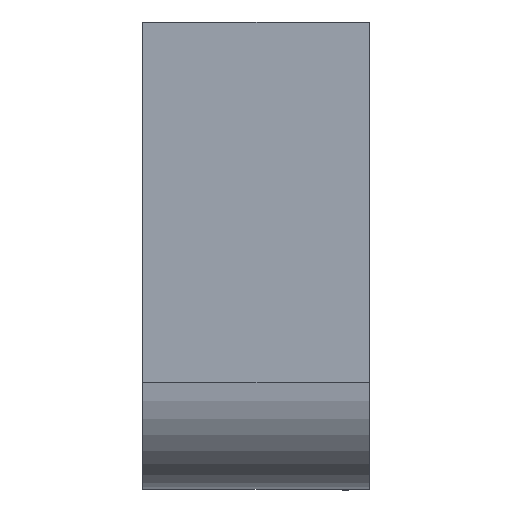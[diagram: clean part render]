
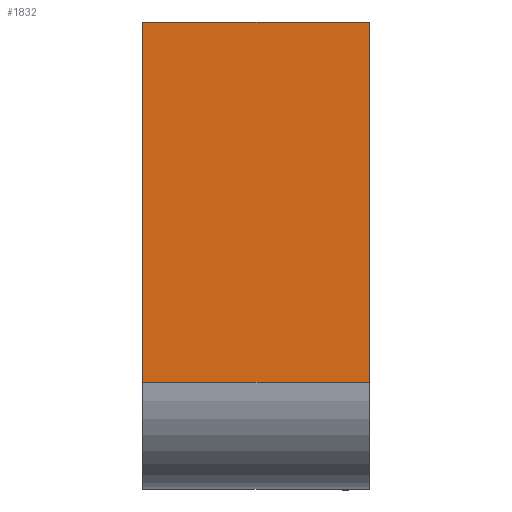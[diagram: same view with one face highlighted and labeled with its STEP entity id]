
A CAD part, top view. The second image highlights one B-rep face of the part: STEP entity #1832.
In plain terms, the highlighted planar face has unit normal (0, 0, 1) as drawn and (0, 1, 0) by its records, which use the part's own axes.
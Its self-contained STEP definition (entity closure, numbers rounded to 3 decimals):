
#14 = EDGE_LOOP ( 'NONE', ( #1754, #345, #41, #696 ) ) ;
#41 = ORIENTED_EDGE ( 'NONE', *, *, #1622, .F. ) ;
#54 = CARTESIAN_POINT ( 'NONE',  ( 21., 50.5, 17. ) ) ;
#106 = CARTESIAN_POINT ( 'NONE',  ( 21., 50.5, 17. ) ) ;
#122 = PLANE ( 'NONE',  #1802 ) ;
#317 = VECTOR ( 'NONE', #1197, 1000. ) ;
#333 = CARTESIAN_POINT ( 'NONE',  ( -6., 50.5, 17. ) ) ;
#345 = ORIENTED_EDGE ( 'NONE', *, *, #1836, .F. ) ;
#456 = LINE ( 'NONE', #54, #317 ) ;
#563 = CARTESIAN_POINT ( 'NONE',  ( 21., 50.5, 0. ) ) ;
#657 = VECTOR ( 'NONE', #1007, 1000. ) ;
#665 = VERTEX_POINT ( 'NONE', #1157 ) ;
#696 = ORIENTED_EDGE ( 'NONE', *, *, #1673, .T. ) ;
#707 = LINE ( 'NONE', #563, #657 ) ;
#746 = VECTOR ( 'NONE', #1515, 1000. ) ;
#794 = CARTESIAN_POINT ( 'NONE',  ( 21., 50.5, 17. ) ) ;
#845 = DIRECTION ( 'NONE',  ( 0., 0., -1. ) ) ;
#945 = LINE ( 'NONE', #1860, #1277 ) ;
#970 = FACE_OUTER_BOUND ( 'NONE', #14, .T. ) ;
#972 = DIRECTION ( 'NONE',  ( 0., -1., 0. ) ) ;
#994 = LINE ( 'NONE', #1224, #746 ) ;
#1007 = DIRECTION ( 'NONE',  ( -1., 0., 0. ) ) ;
#1157 = CARTESIAN_POINT ( 'NONE',  ( -6., 50.5, 0. ) ) ;
#1197 = DIRECTION ( 'NONE',  ( 0., 0., -1. ) ) ;
#1224 = CARTESIAN_POINT ( 'NONE',  ( 21., 50.5, 17. ) ) ;
#1277 = VECTOR ( 'NONE', #845, 1000. ) ;
#1353 = EDGE_CURVE ( 'NONE', #1847, #665, #707, .T. ) ;
#1423 = DIRECTION ( 'NONE',  ( 1., 0., 0. ) ) ;
#1515 = DIRECTION ( 'NONE',  ( -1., 0., 0. ) ) ;
#1566 = CARTESIAN_POINT ( 'NONE',  ( 21., 50.5, 0. ) ) ;
#1622 = EDGE_CURVE ( 'NONE', #1721, #1648, #994, .T. ) ;
#1648 = VERTEX_POINT ( 'NONE', #333 ) ;
#1673 = EDGE_CURVE ( 'NONE', #1721, #1847, #456, .T. ) ;
#1721 = VERTEX_POINT ( 'NONE', #794 ) ;
#1754 = ORIENTED_EDGE ( 'NONE', *, *, #1353, .T. ) ;
#1802 = AXIS2_PLACEMENT_3D ( 'NONE', #106, #972, #1423 ) ;
#1832 = ADVANCED_FACE ( 'NONE', ( #970 ), #122, .F. ) ;
#1836 = EDGE_CURVE ( 'NONE', #1648, #665, #945, .T. ) ;
#1847 = VERTEX_POINT ( 'NONE', #1566 ) ;
#1860 = CARTESIAN_POINT ( 'NONE',  ( -6., 50.5, 17. ) ) ;
